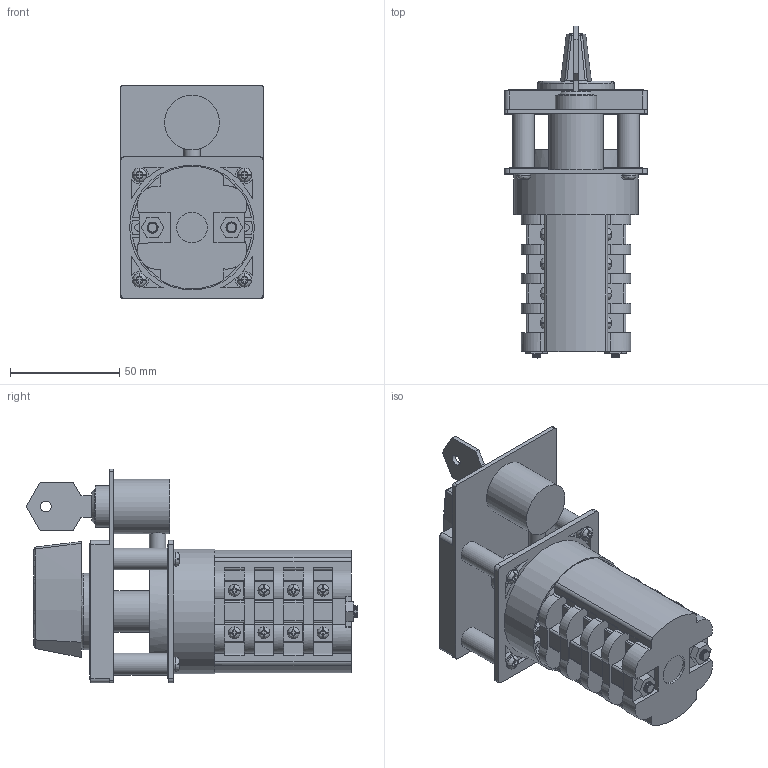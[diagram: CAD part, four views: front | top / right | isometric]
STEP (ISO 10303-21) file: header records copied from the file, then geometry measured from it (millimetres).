
FILE_DESCRIPTION(/* description */ (''),/* implementation_level */ '2;1');
FILE_NAME(/* name */ '4G16,25_S5_4_korpusy.stp',/* time_stamp */ '2021-07-21T11:47:34+02:00',/* author */ (''),/* organization */ (''),/* preprocessor_version */ 'ST-DEVELOPER v18.1',/* originating_system */ 'SIEMENS PLM Software NX 1965',/* authorisation */ '');
FILE_SCHEMA (('AUTOMOTIVE_DESIGN { 1 0 10303 214 3 1 1 }','FEATURE_BASED_PROCESS_PLANNING','TECHNICAL_DATA_PACKAGING','INTEGRATED_CNC_SCHEMA','MODEL_BASED_INTEGRATED_MANUFACTURING_SCHEMA','PROCESS_PLANNING_SCHEMA','AP242_MANAGED_MODEL_BASED_3D_ENGINEERING_MIM_LF { 1 0 10303 442 1 1 4 }'));
Products named in the file (1): 4G16,25_S5_4_korpusy_stp
Bounding box: 65 x 151.6 x 97.5 mm (x, y, z)
Volume: 281072.1 mm3; surface area: 68966.8 mm2
Topology: 2 solids, 13 shells, 1219 faces, 3381 edges, 2228 vertices
Faces by surface type: plane 705, cylinder 344, bspline 131, cone 36, sphere 2, torus 1
Full cylindrical faces by diameter (mm): 3.3 x2, 4 x4, 4.3 x4, 5 x3, 5.4 x17, 6.4 x4, 6.5 x2, 7.2 x4, 7.5 x1, 10 x5, 14 x1, 15.8 x1, 19 x2, 21.2 x1, 25 x1, 35 x1, 57 x1
Entity records: 113050 total; most frequent: CARTESIAN_POINT 83331, ORIENTED_EDGE 6466, DIRECTION 5520, EDGE_CURVE 3233, VERTEX_POINT 2164, AXIS2_PLACEMENT_3D 1985, LINE 1550, VECTOR 1550
